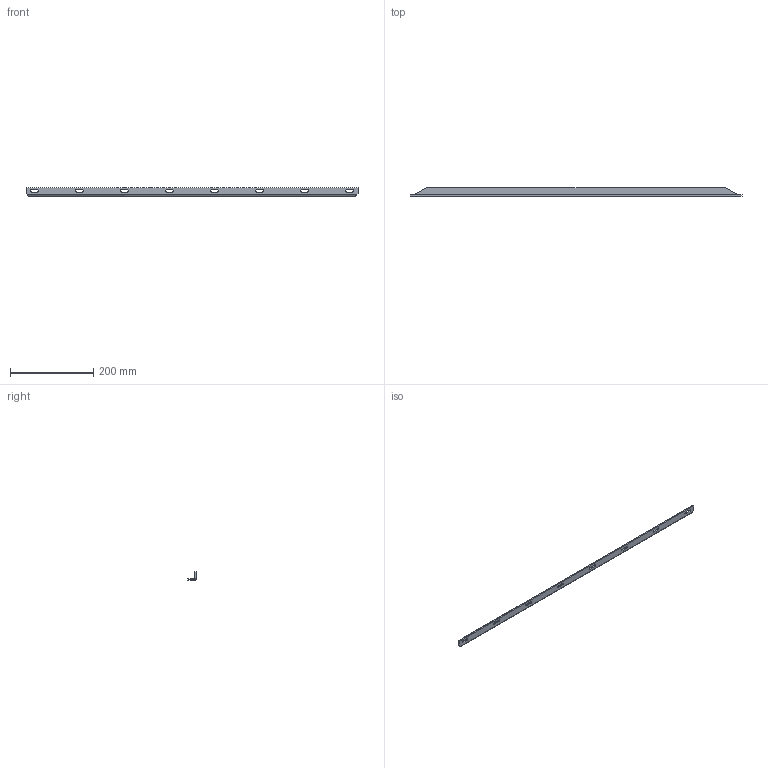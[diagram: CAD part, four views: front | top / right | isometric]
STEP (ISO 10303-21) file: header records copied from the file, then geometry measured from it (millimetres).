
FILE_DESCRIPTION (( 'STEP AP214' ), '1' );
FILE_NAME ('E446-800.STEP', '2024-12-11T22:59:32', ( '' ), ( '' ), 'SwSTEP 2.0', 'SolidWorks 2024', '' );
FILE_SCHEMA (( 'AUTOMOTIVE_DESIGN' ));
Length unit declared in the file: millimetre
Products named in the file (1): E446-800
Bounding box: 800 x 20 x 20 mm (x, y, z)
Volume: 82020 mm3; surface area: 60736.6 mm2
Topology: 1 solids, 1 shells, 100 faces, 274 edges, 180 vertices
Faces by surface type: plane 70, cylinder 24, bspline 6
Entity records: 3319 total; most frequent: CARTESIAN_POINT 737, ORIENTED_EDGE 548, DIRECTION 492, EDGE_CURVE 274, VECTOR 214, LINE 214, VERTEX_POINT 180, AXIS2_PLACEMENT_3D 139
